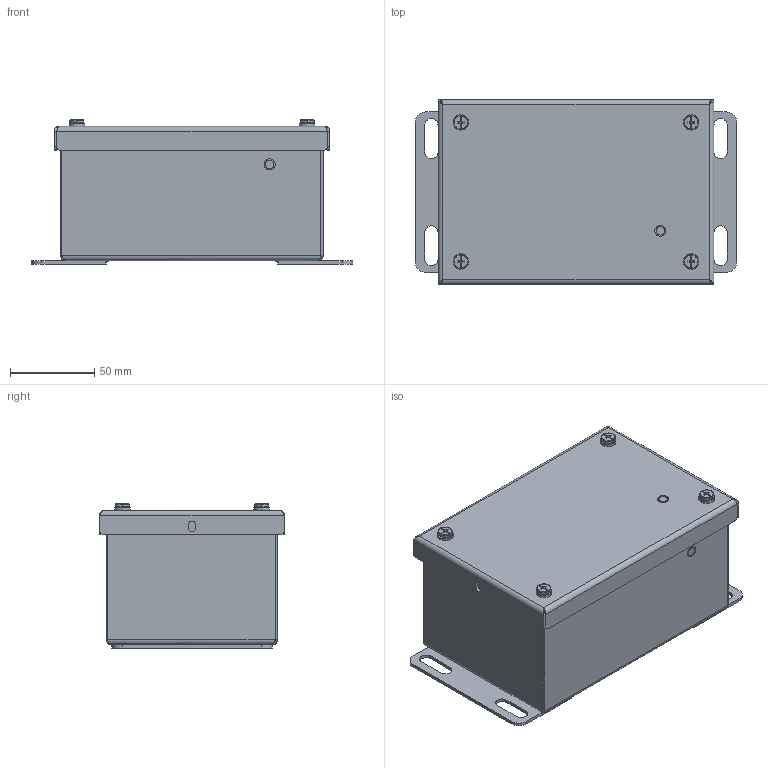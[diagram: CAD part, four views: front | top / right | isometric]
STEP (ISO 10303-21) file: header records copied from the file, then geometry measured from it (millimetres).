
FILE_DESCRIPTION((''),'2;1');
FILE_NAME('MODEL-337_ASM','2025-09-15T13:51:46',('richards'),('SAGINAW CONTROL & ENGINEERING'),'CREO PARAMETRIC BY PTC INC, 2021284','CREO PARAMETRIC BY PTC INC, 2021284','');
FILE_SCHEMA(('AUTOMOTIVE_DESIGN { 1 0 10303 214 1 1 1 1 }'));
Length unit declared in the file: inch
Products named in the file (13): MODEL-337-BDY; MODEL-337-DR; 100063; 100009; 102146; 122255; MODEL-337-GSKT; 100983; 102534; CH-ELJ_SUBPANEL; 102479; CH-ELJ_SUBPANEL-SUBASSEMBLY_ASM; MODEL-337_ASM
Assembly tree (26 placements, depth 3):
  MODEL-337_ASM
    MODEL-337-BDY
    MODEL-337-DR
    100063  x2
    100009  x4
    102146  x2
    122255
    MODEL-337-GSKT
    100983  x4
    102534  x4
    CH-ELJ_SUBPANEL-SUBASSEMBLY_ASM
      CH-ELJ_SUBPANEL
      102479  x4
Bounding box: 190.5 x 109.54 x 85.36 mm (x, y, z)
Volume: 168502.2 mm3; surface area: 217832.9 mm2
Topology: 28 solids, 28 shells, 1038 faces, 2572 edges, 1468 vertices
Faces by surface type: plane 402, cylinder 308, bspline 180, torus 96, cone 44, sphere 8
Entity records: 28231 total; most frequent: CARTESIAN_POINT 9652, DIRECTION 2591, ORIENTED_EDGE 2524, EDGE_CURVE 1262, PRESENTATION_STYLE_ASSIGNMENT 1176, STYLED_ITEM 1176, CURVE_STYLE 1098, AXIS2_PLACEMENT_3D 946
